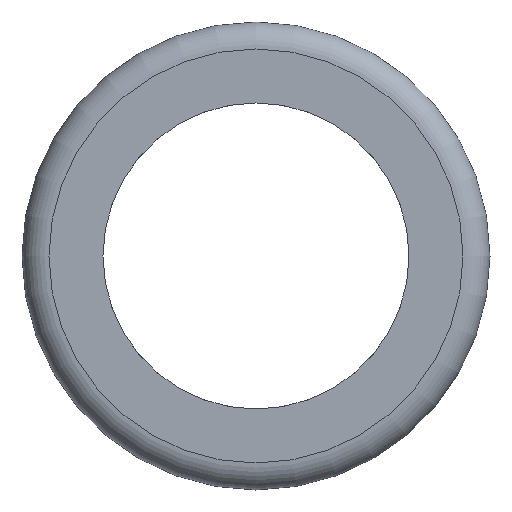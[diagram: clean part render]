
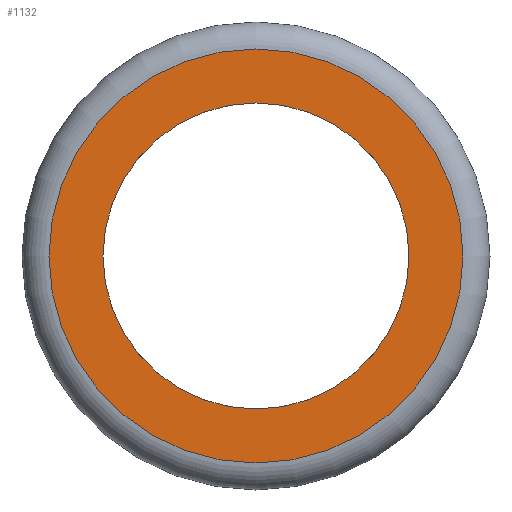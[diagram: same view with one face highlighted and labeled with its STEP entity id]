
A CAD part, front view. The second image highlights one B-rep face of the part: STEP entity #1132.
In plain terms, the highlighted planar face has unit normal (0, -1, 0).
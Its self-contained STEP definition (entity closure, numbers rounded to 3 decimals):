
#15=FACE_BOUND('',#315,.T.);
#194=PLANE('',#1255);
#254=FACE_OUTER_BOUND('',#314,.T.);
#314=EDGE_LOOP('',(#1051));
#315=EDGE_LOOP('',(#1052));
#353=CIRCLE('',#1228,8.5);
#362=CIRCLE('',#1249,11.5);
#523=VERTEX_POINT('',#2365);
#529=VERTEX_POINT('',#2444);
#683=EDGE_CURVE('',#523,#523,#353,.T.);
#701=EDGE_CURVE('',#529,#529,#362,.T.);
#1051=ORIENTED_EDGE('',*,*,#701,.F.);
#1052=ORIENTED_EDGE('',*,*,#683,.T.);
#1132=ADVANCED_FACE('',(#254,#15),#194,.T.);
#1228=AXIS2_PLACEMENT_3D('',#2366,#1476,#1477);
#1249=AXIS2_PLACEMENT_3D('',#2445,#1523,#1524);
#1255=AXIS2_PLACEMENT_3D('',#2455,#1536,#1537);
#1476=DIRECTION('center_axis',(0.,1.,0.));
#1477=DIRECTION('ref_axis',(1.,0.,0.));
#1523=DIRECTION('center_axis',(0.,1.,0.));
#1524=DIRECTION('ref_axis',(1.,0.,0.));
#1536=DIRECTION('center_axis',(0.,-1.,0.));
#1537=DIRECTION('ref_axis',(1.,0.,0.));
#2365=CARTESIAN_POINT('',(-8.5,-2.,0.));
#2366=CARTESIAN_POINT('Origin',(0.,-2.,0.));
#2444=CARTESIAN_POINT('',(0.,-2.,11.5));
#2445=CARTESIAN_POINT('Origin',(0.,-2.,0.));
#2455=CARTESIAN_POINT('Origin',(0.,-2.,0.));
